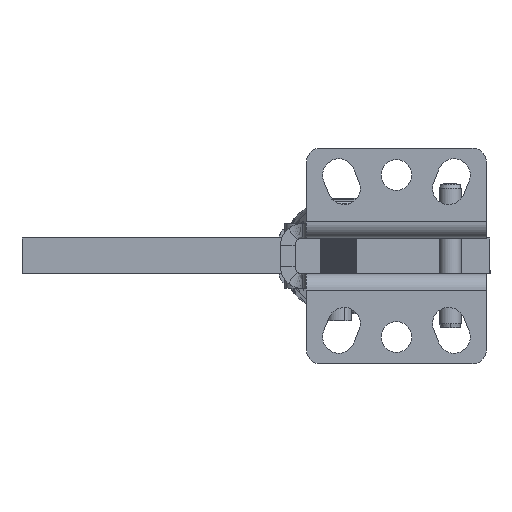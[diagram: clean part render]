
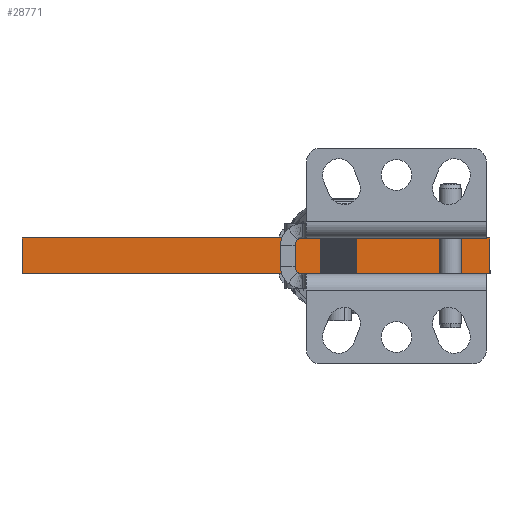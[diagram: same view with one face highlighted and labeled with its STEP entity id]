
A CAD part, front view. The second image highlights one B-rep face of the part: STEP entity #28771.
In plain terms, the highlighted planar face has unit normal (0, -1, 0).
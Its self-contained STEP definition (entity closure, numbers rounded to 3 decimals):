
#594 = CARTESIAN_POINT ( 'NONE',  ( 130., 0., 0. ) ) ;
#997 = EDGE_CURVE ( 'NONE', #19422, #25658, #25328, .T. ) ;
#1651 = VECTOR ( 'NONE', #42211, 1000. ) ;
#1744 = LINE ( 'NONE', #41692, #34697 ) ;
#4764 = VECTOR ( 'NONE', #32602, 1000. ) ;
#6201 = AXIS2_PLACEMENT_3D ( 'NONE', #9950, #33521, #6643 ) ;
#6643 = DIRECTION ( 'NONE',  ( 0., 0., -1. ) ) ;
#7758 = ORIENTED_EDGE ( 'NONE', *, *, #21559, .F. ) ;
#9659 = EDGE_CURVE ( 'NONE', #29731, #12855, #41994, .T. ) ;
#9950 = CARTESIAN_POINT ( 'NONE',  ( 0., 0., 10. ) ) ;
#11757 = EDGE_CURVE ( 'NONE', #12855, #25658, #1744, .T. ) ;
#12855 = VERTEX_POINT ( 'NONE', #35966 ) ;
#13898 = FACE_OUTER_BOUND ( 'NONE', #25823, .T. ) ;
#15217 = DIRECTION ( 'NONE',  ( 1., 0., 0. ) ) ;
#15842 = CARTESIAN_POINT ( 'NONE',  ( 0., 0., 10. ) ) ;
#19140 = DIRECTION ( 'NONE',  ( 0., 0., -1. ) ) ;
#19422 = VERTEX_POINT ( 'NONE', #32721 ) ;
#21559 = EDGE_CURVE ( 'NONE', #29731, #19422, #38571, .T. ) ;
#22362 = CARTESIAN_POINT ( 'NONE',  ( 0., 0., 10. ) ) ;
#23260 = CARTESIAN_POINT ( 'NONE',  ( 0., 0., 10. ) ) ;
#24460 = ORIENTED_EDGE ( 'NONE', *, *, #9659, .T. ) ;
#25328 = LINE ( 'NONE', #32143, #25455 ) ;
#25455 = VECTOR ( 'NONE', #19140, 1000. ) ;
#25658 = VERTEX_POINT ( 'NONE', #594 ) ;
#25823 = EDGE_LOOP ( 'NONE', ( #37144, #41452, #7758, #24460 ) ) ;
#28771 = ADVANCED_FACE ( 'NONE', ( #13898 ), #36853, .F. ) ;
#29731 = VERTEX_POINT ( 'NONE', #23260 ) ;
#32143 = CARTESIAN_POINT ( 'NONE',  ( 130., 0., 10. ) ) ;
#32602 = DIRECTION ( 'NONE',  ( 1., 0., 0. ) ) ;
#32721 = CARTESIAN_POINT ( 'NONE',  ( 130., 0., 10. ) ) ;
#33521 = DIRECTION ( 'NONE',  ( 0., 1., 0. ) ) ;
#34697 = VECTOR ( 'NONE', #15217, 1000. ) ;
#35966 = CARTESIAN_POINT ( 'NONE',  ( 0., 0., 0. ) ) ;
#36853 = PLANE ( 'NONE',  #6201 ) ;
#37144 = ORIENTED_EDGE ( 'NONE', *, *, #11757, .T. ) ;
#38571 = LINE ( 'NONE', #15842, #4764 ) ;
#41452 = ORIENTED_EDGE ( 'NONE', *, *, #997, .F. ) ;
#41692 = CARTESIAN_POINT ( 'NONE',  ( 0., 0., 0. ) ) ;
#41994 = LINE ( 'NONE', #22362, #1651 ) ;
#42211 = DIRECTION ( 'NONE',  ( 0., 0., -1. ) ) ;
